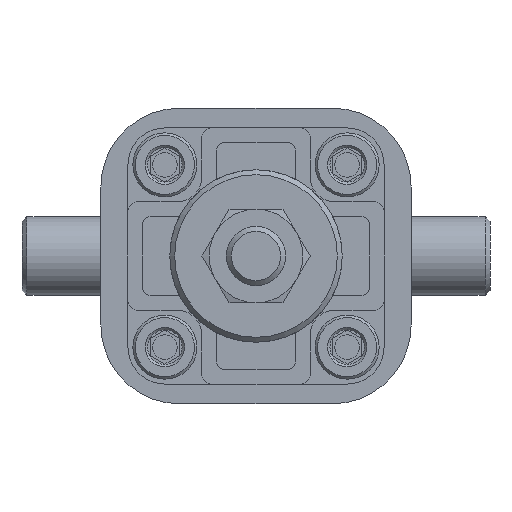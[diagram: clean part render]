
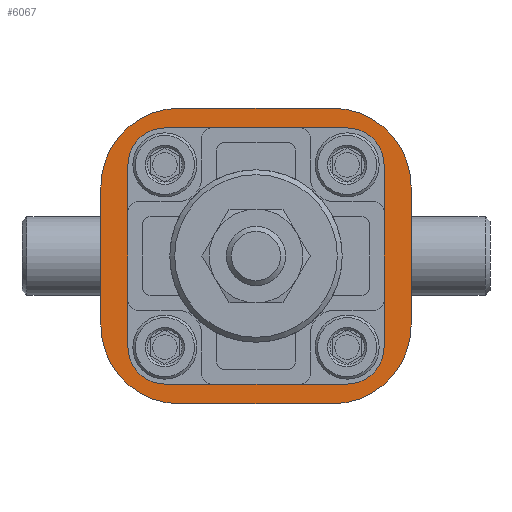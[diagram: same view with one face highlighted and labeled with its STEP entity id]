
A CAD part, front view. The second image highlights one B-rep face of the part: STEP entity #6067.
In plain terms, the highlighted planar face has unit normal (0, -1, 0).
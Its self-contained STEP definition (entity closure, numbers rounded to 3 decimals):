
#410=LINE('',#9173,#734);
#414=LINE('',#9184,#738);
#420=LINE('',#9198,#744);
#422=LINE('',#9204,#746);
#734=VECTOR('',#7819,1000.);
#738=VECTOR('',#7827,1000.);
#744=VECTOR('',#7835,1000.);
#746=VECTOR('',#7841,1000.);
#1974=ORIENTED_EDGE('',*,*,#2587,.F.);
#1975=ORIENTED_EDGE('',*,*,#2588,.F.);
#1976=ORIENTED_EDGE('',*,*,#2589,.F.);
#1977=ORIENTED_EDGE('',*,*,#2590,.F.);
#1978=ORIENTED_EDGE('',*,*,#2591,.T.);
#1979=ORIENTED_EDGE('',*,*,#2571,.F.);
#1980=ORIENTED_EDGE('',*,*,#2592,.T.);
#1981=ORIENTED_EDGE('',*,*,#2565,.F.);
#1982=ORIENTED_EDGE('',*,*,#2593,.T.);
#1983=ORIENTED_EDGE('',*,*,#2560,.F.);
#1984=ORIENTED_EDGE('',*,*,#2594,.T.);
#1985=ORIENTED_EDGE('',*,*,#2574,.F.);
#1986=ORIENTED_EDGE('',*,*,#2595,.T.);
#2560=EDGE_CURVE('',#2977,#2978,#410,.T.);
#2565=EDGE_CURVE('',#2982,#2983,#414,.T.);
#2571=EDGE_CURVE('',#2988,#2989,#420,.T.);
#2574=EDGE_CURVE('',#2991,#2992,#422,.T.);
#2587=EDGE_CURVE('',#3000,#3000,#3219,.F.);
#2588=EDGE_CURVE('',#3001,#3001,#3220,.F.);
#2589=EDGE_CURVE('',#3002,#3002,#3221,.F.);
#2590=EDGE_CURVE('',#3003,#3003,#3222,.F.);
#2591=EDGE_CURVE('',#3004,#3004,#3223,.T.);
#2592=EDGE_CURVE('',#2988,#2983,#3224,.F.);
#2593=EDGE_CURVE('',#2982,#2978,#3225,.F.);
#2594=EDGE_CURVE('',#2977,#2992,#3226,.F.);
#2595=EDGE_CURVE('',#2991,#2989,#3227,.F.);
#2977=VERTEX_POINT('',#9174);
#2978=VERTEX_POINT('',#9175);
#2982=VERTEX_POINT('',#9185);
#2983=VERTEX_POINT('',#9186);
#2988=VERTEX_POINT('',#9197);
#2989=VERTEX_POINT('',#9199);
#2991=VERTEX_POINT('',#9205);
#2992=VERTEX_POINT('',#9206);
#3000=VERTEX_POINT('',#9229);
#3001=VERTEX_POINT('',#9231);
#3002=VERTEX_POINT('',#9233);
#3003=VERTEX_POINT('',#9235);
#3004=VERTEX_POINT('',#9237);
#3219=CIRCLE('',#6580,2.5);
#3220=CIRCLE('',#6581,2.5);
#3221=CIRCLE('',#6582,2.5);
#3222=CIRCLE('',#6583,2.5);
#3223=CIRCLE('',#6584,22.75);
#3224=CIRCLE('',#6585,16.);
#3225=CIRCLE('',#6586,16.);
#3226=CIRCLE('',#6587,16.);
#3227=CIRCLE('',#6588,16.);
#3572=EDGE_LOOP('',(#1974));
#3573=EDGE_LOOP('',(#1975));
#3574=EDGE_LOOP('',(#1976));
#3575=EDGE_LOOP('',(#1977));
#3576=EDGE_LOOP('',(#1978));
#3577=EDGE_LOOP('',(#1979,#1980,#1981,#1982,#1983,#1984,#1985,#1986));
#3942=FACE_BOUND('',#3572,.T.);
#3943=FACE_BOUND('',#3573,.T.);
#3944=FACE_BOUND('',#3574,.T.);
#3945=FACE_BOUND('',#3575,.T.);
#3946=FACE_BOUND('',#3576,.T.);
#3947=FACE_BOUND('',#3577,.T.);
#4110=PLANE('',#6579);
#6067=ADVANCED_FACE('',(#3942,#3943,#3944,#3945,#3946,#3947),#4110,.F.);
#6579=AXIS2_PLACEMENT_3D('',#9227,#7865,#7866);
#6580=AXIS2_PLACEMENT_3D('',#9228,#7867,#7868);
#6581=AXIS2_PLACEMENT_3D('',#9230,#7869,#7870);
#6582=AXIS2_PLACEMENT_3D('',#9232,#7871,#7872);
#6583=AXIS2_PLACEMENT_3D('',#9234,#7873,#7874);
#6584=AXIS2_PLACEMENT_3D('',#9236,#7875,#7876);
#6585=AXIS2_PLACEMENT_3D('',#9238,#7877,#7878);
#6586=AXIS2_PLACEMENT_3D('',#9239,#7879,#7880);
#6587=AXIS2_PLACEMENT_3D('',#9240,#7881,#7882);
#6588=AXIS2_PLACEMENT_3D('',#9241,#7883,#7884);
#7819=DIRECTION('',(-1.,0.,0.));
#7827=DIRECTION('',(0.,0.,1.));
#7835=DIRECTION('',(1.,0.,0.));
#7841=DIRECTION('',(0.,0.,-1.));
#7865=DIRECTION('',(0.,1.,0.));
#7866=DIRECTION('',(0.,0.,1.));
#7867=DIRECTION('',(0.,1.,0.));
#7868=DIRECTION('',(0.,0.,1.));
#7869=DIRECTION('',(0.,1.,0.));
#7870=DIRECTION('',(0.,0.,1.));
#7871=DIRECTION('',(0.,1.,0.));
#7872=DIRECTION('',(0.,0.,1.));
#7873=DIRECTION('',(0.,1.,0.));
#7874=DIRECTION('',(0.,0.,1.));
#7875=DIRECTION('',(0.,1.,0.));
#7876=DIRECTION('',(0.,0.,1.));
#7877=DIRECTION('',(0.,1.,0.));
#7878=DIRECTION('',(0.,0.,1.));
#7879=DIRECTION('',(0.,1.,0.));
#7880=DIRECTION('',(0.,0.,1.));
#7881=DIRECTION('',(0.,1.,0.));
#7882=DIRECTION('',(0.,0.,1.));
#7883=DIRECTION('',(0.,1.,0.));
#7884=DIRECTION('',(0.,0.,1.));
#9173=CARTESIAN_POINT('',(45.,-15.,-30.));
#9174=CARTESIAN_POINT('',(15.5,-15.,-30.));
#9175=CARTESIAN_POINT('',(-15.5,-15.,-30.));
#9184=CARTESIAN_POINT('',(-31.5,-15.,-40.5));
#9185=CARTESIAN_POINT('',(-31.5,-15.,-14.));
#9186=CARTESIAN_POINT('',(-31.5,-15.,14.));
#9197=CARTESIAN_POINT('',(-15.5,-15.,30.));
#9198=CARTESIAN_POINT('',(-45.,-15.,30.));
#9199=CARTESIAN_POINT('',(15.5,-15.,30.));
#9204=CARTESIAN_POINT('',(31.5,-15.,40.5));
#9205=CARTESIAN_POINT('',(31.5,-15.,14.));
#9206=CARTESIAN_POINT('',(31.5,-15.,-14.));
#9227=CARTESIAN_POINT('',(0.,-15.,0.));
#9228=CARTESIAN_POINT('',(18.5,-15.,-18.5));
#9229=CARTESIAN_POINT('',(18.5,-15.,-16.));
#9230=CARTESIAN_POINT('',(-18.5,-15.,-18.5));
#9231=CARTESIAN_POINT('',(-18.5,-15.,-16.));
#9232=CARTESIAN_POINT('',(-18.5,-15.,18.5));
#9233=CARTESIAN_POINT('',(-18.5,-15.,21.));
#9234=CARTESIAN_POINT('',(18.5,-15.,18.5));
#9235=CARTESIAN_POINT('',(18.5,-15.,21.));
#9236=CARTESIAN_POINT('',(0.,-15.,0.));
#9237=CARTESIAN_POINT('',(0.,-15.,22.75));
#9238=CARTESIAN_POINT('',(-15.5,-15.,14.));
#9239=CARTESIAN_POINT('',(-15.5,-15.,-14.));
#9240=CARTESIAN_POINT('',(15.5,-15.,-14.));
#9241=CARTESIAN_POINT('',(15.5,-15.,14.));
